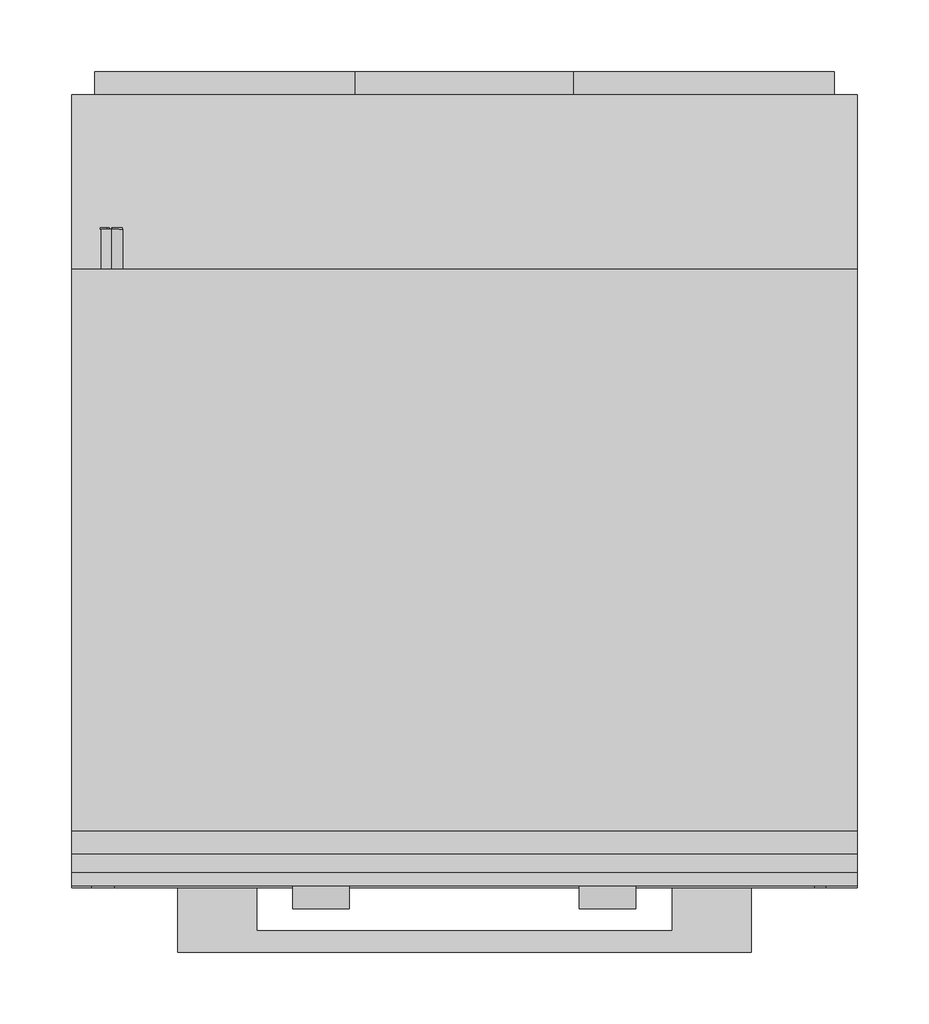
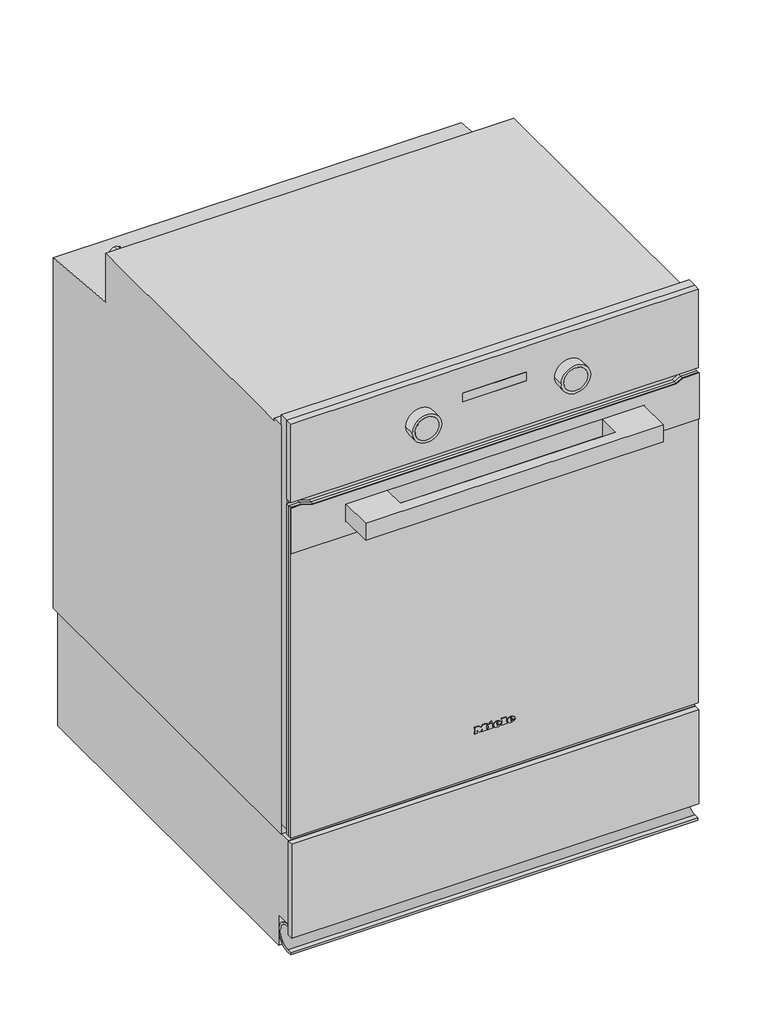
# Not in any storey: 1 proxy.
"""IFC4 building model written with IfcOpenShell, lengths in millimetres."""

from ifc_helpers import new_model, si_unit, origin, place, context, project, spatial, transform, mapped, element, save
from components import specialty_equipment_0b252357

model = new_model("IFC4")

# Units and contexts
model_context = context("Model", 3, world=origin())
ifc_project = project(units=[si_unit("LENGTHUNIT", "METRE", prefix="MILLI")], contexts=[model_context])

# Site, building
site = spatial("IfcSite", under=ifc_project)
building = spatial("IfcBuilding", under=site)

# Proxy
placement = place(None, origin())
specialty_equipment_shape = specialty_equipment_0b252357(model_context)
element("IfcBuildingElementProxy", 1, Name="12146130_CH_H2861-55BP_EDST-CLS : 22286149_CH_12146130_H2861-55BP_EDST-CLS", ObjectType="12146130_CH_H2861-55BP_EDST-CLS : 22286149_CH_12146130_H2861-55BP_EDST-CLS", at=placement, inside=building, context=model_context, shape_type="MappedRepresentation", body=[
    mapped(specialty_equipment_shape, transform((0.0, 0.0, 0.0), x_axis=(1.0, 0.0, 0.0), y_axis=(0.0, 1.0, 0.0), z_axis=(0.0, 0.0, 1.0))),
])

save(model, "model.ifc")
